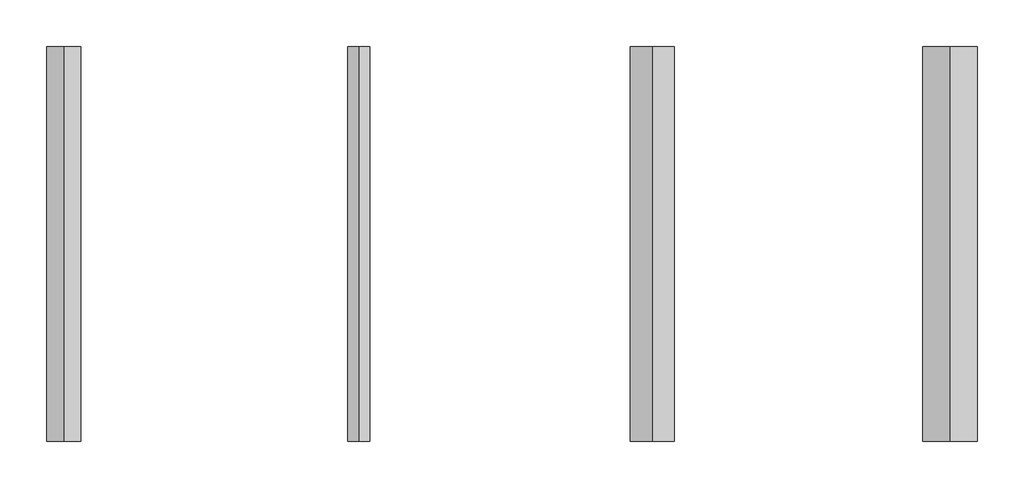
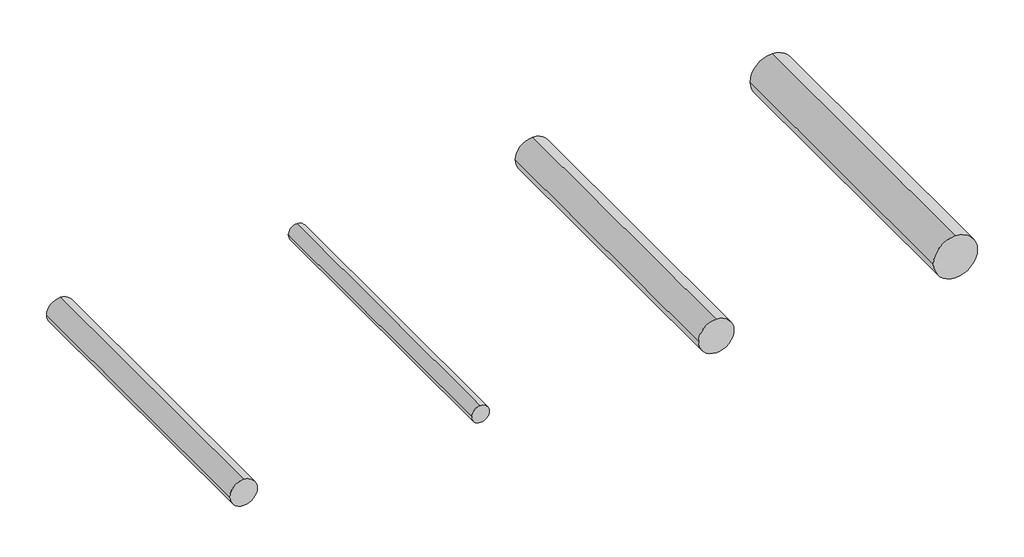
# One storey, incomplete: 4 pipe segments.
"""IFC4 building model written with IfcOpenShell, lengths in millimetres."""

from ifc_helpers import new_model, si_unit, point, frame, frame_2d, origin, place, context, project, spatial, circle_curve, trimmed, segment, composite_curve, outline, extrude, element, save

model = new_model("IFC4")

# Units and contexts
model_context = context("Model", 3, world=origin())
ifc_project = project(units=[si_unit("LENGTHUNIT", "METRE", prefix="MILLI")], contexts=[model_context])

# Site, building, storey
site = spatial("IfcSite", under=ifc_project)
building = spatial("IfcBuilding", under=site)
storey = spatial("IfcBuildingStorey", under=building, Name="Amanco NF Vista de Inicio", Elevation=0.0)

# Pipe segments
placement = place(None, origin())
element("IfcPipeSegment", 1, ObjectType="AmancoWavin_Alcantarillado_S20", at=placement, inside=storey, context=model_context, shape_type="SweptSolid", body=[
    extrude(outline(composite_curve([segment(trimmed(circle_curve(frame_2d((-25.0, -24.7778744)), 200.2), [point((-25.0, -224.9778744))], [point((-225.2, -24.7778744))], False, "CARTESIAN"), True, "CONTINUOUS"), segment(trimmed(circle_curve(frame_2d((-25.0, -24.7778744)), 200.2), [point((-225.2, -24.7778744))], [point((-25.0, 175.4221256))], False, "CARTESIAN"), True, "CONTINUOUS"), segment(trimmed(circle_curve(frame_2d((-25.0, -24.7778744)), 200.2), [point((-25.0, 175.4221256))], [point((175.2, -24.7778744))], False, "CARTESIAN"), True, "CONTINUOUS"), segment(trimmed(circle_curve(frame_2d((-25.0, -24.7778744)), 200.2), [point((175.2, -24.7778744))], [point((-25.0, -224.9778744))], False, "CARTESIAN"), True, "CONTINUOUS")], self_intersect=False)), frame((0.0, 8135.3015014, 0.0), z_axis=(0.0, 1.0, 0.0), x_axis=(0.0, 0.0, 1.0)), (0.0, 0.0, 1.0), 3600.0),
])
element("IfcPipeSegment", 2, ObjectType="AmancoWavin_Alcantarillado_S16.5", at=placement, inside=storey, context=model_context, shape_type="SweptSolid", body=[
    extrude(outline(composite_curve([segment(trimmed(circle_curve(frame_2d((-25.0, -2699.6902279)), 100.1), [point((-25.0, -2799.7902279))], [point((-125.1, -2699.6902279))], False, "CARTESIAN"), True, "CONTINUOUS"), segment(trimmed(circle_curve(frame_2d((-25.0, -2699.6902279)), 100.1), [point((-125.1, -2699.6902279))], [point((-25.0, -2599.5902279))], False, "CARTESIAN"), True, "CONTINUOUS"), segment(trimmed(circle_curve(frame_2d((-25.0, -2699.6902279)), 100.1), [point((-25.0, -2599.5902279))], [point((75.1, -2699.6902279))], False, "CARTESIAN"), True, "CONTINUOUS"), segment(trimmed(circle_curve(frame_2d((-25.0, -2699.6902279)), 100.1), [point((75.1, -2699.6902279))], [point((-25.0, -2799.7902279))], False, "CARTESIAN"), True, "CONTINUOUS")], self_intersect=False)), frame((0.0, 8135.3015014, 0.0), z_axis=(0.0, 1.0, 0.0), x_axis=(0.0, 0.0, 1.0)), (0.0, 0.0, 1.0), 3600.0),
])
element("IfcPipeSegment", 3, ObjectType="AmancoWavin_Alcantarillado_S25", at=placement, inside=storey, context=model_context, shape_type="SweptSolid", body=[
    extrude(outline(composite_curve([segment(trimmed(circle_curve(frame_2d((-25.0, 2688.6165507)), 250.2), [point((-25.0, 2438.4165507))], [point((-275.2, 2688.6165507))], False, "CARTESIAN"), True, "CONTINUOUS"), segment(trimmed(circle_curve(frame_2d((-25.0, 2688.6165507)), 250.2), [point((-275.2, 2688.6165507))], [point((-25.0, 2938.8165507))], False, "CARTESIAN"), True, "CONTINUOUS"), segment(trimmed(circle_curve(frame_2d((-25.0, 2688.6165507)), 250.2), [point((-25.0, 2938.8165507))], [point((225.2, 2688.6165507))], False, "CARTESIAN"), True, "CONTINUOUS"), segment(trimmed(circle_curve(frame_2d((-25.0, 2688.6165507)), 250.2), [point((225.2, 2688.6165507))], [point((-25.0, 2438.4165507))], False, "CARTESIAN"), True, "CONTINUOUS")], self_intersect=False)), frame((0.0, 8135.3015014, 0.0), z_axis=(0.0, 1.0, 0.0), x_axis=(0.0, 0.0, 1.0)), (0.0, 0.0, 1.0), 3600.0),
])
element("IfcPipeSegment", 4, ObjectType="AmancoWavin_Novafort_160mm-900mm", at=placement, inside=storey, context=model_context, shape_type="SweptSolid", body=[
    extrude(outline(composite_curve([segment(trimmed(circle_curve(frame_2d((-25.0, -5386.657622)), 156.0), [point((-25.0, -5542.657622))], [point((-181.0, -5386.657622))], False, "CARTESIAN"), True, "CONTINUOUS"), segment(trimmed(circle_curve(frame_2d((-25.0, -5386.657622)), 156.0), [point((-181.0, -5386.657622))], [point((-25.0, -5230.657622))], False, "CARTESIAN"), True, "CONTINUOUS"), segment(trimmed(circle_curve(frame_2d((-25.0, -5386.657622)), 156.0), [point((-25.0, -5230.657622))], [point((131.0, -5386.657622))], False, "CARTESIAN"), True, "CONTINUOUS"), segment(trimmed(circle_curve(frame_2d((-25.0, -5386.657622)), 156.0), [point((131.0, -5386.657622))], [point((-25.0, -5542.657622))], False, "CARTESIAN"), True, "CONTINUOUS")], self_intersect=False)), frame((0.0, 8135.3015014, 0.0), z_axis=(0.0, 1.0, 0.0), x_axis=(0.0, 0.0, 1.0)), (0.0, 0.0, 1.0), 3600.0),
])

save(model, "model.ifc")
